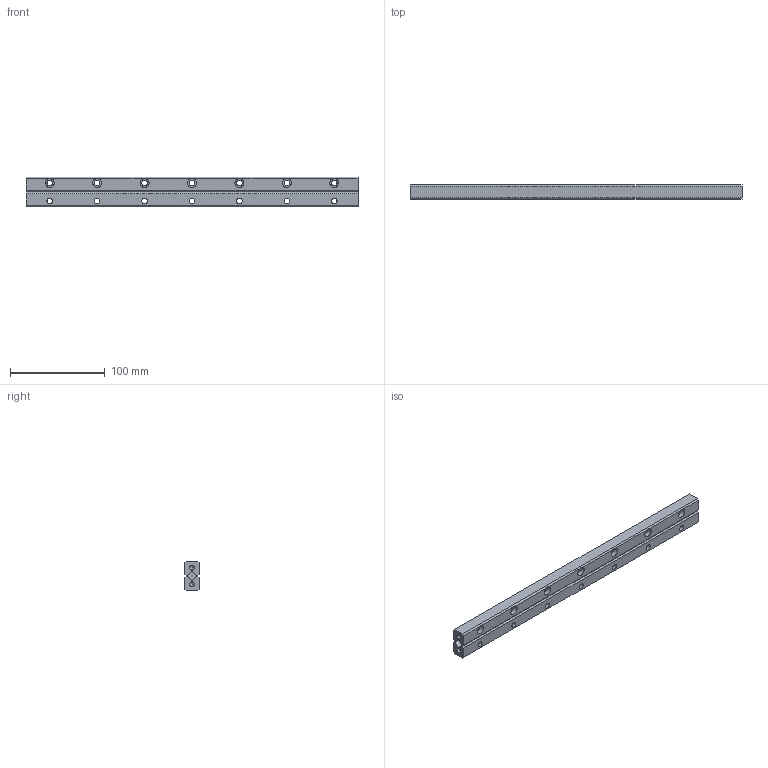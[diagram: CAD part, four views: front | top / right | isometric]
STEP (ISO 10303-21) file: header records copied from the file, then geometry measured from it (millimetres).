
FILE_DESCRIPTION((''),'2;1');
FILE_NAME('D:\製品 (図面)\カタログ用3D\リニアガイド関連\STEP形式\ACS6\ACS6350.stp','2010-07-29T15:44:22',('Tsuchiya'),(''),'Autodesk Inventor 10','Autodesk Inventor 10','');
FILE_SCHEMA(('AUTOMOTIVE_DESIGN { 1 0 10303 214 1 1 1 1 }'));
Length unit declared in the file: millimetre
Products named in the file (4): ACS6350; ACS63501; ACS63502; ACS63503
Assembly tree (3 placements, depth 2):
  ACS6350
    ACS63501
    ACS63502
    ACS63503
Bounding box: 350 x 15 x 31 mm (x, y, z)
Volume: 141845.6 mm3; surface area: 57290.6 mm2
Topology: 3 solids, 3 shells, 104 faces, 280 edges, 186 vertices
Faces by surface type: plane 52, bspline 46, cylinder 4, cone 2
Full cylindrical faces by diameter (mm): 5 x2
Entity records: 3485 total; most frequent: CARTESIAN_POINT 1087, ORIENTED_EDGE 448, DIRECTION 436, EDGE_CURVE 224, EDGE_LOOP 172, VERTEX_POINT 166, AXIS2_PLACEMENT_3D 147, VECTOR 142
